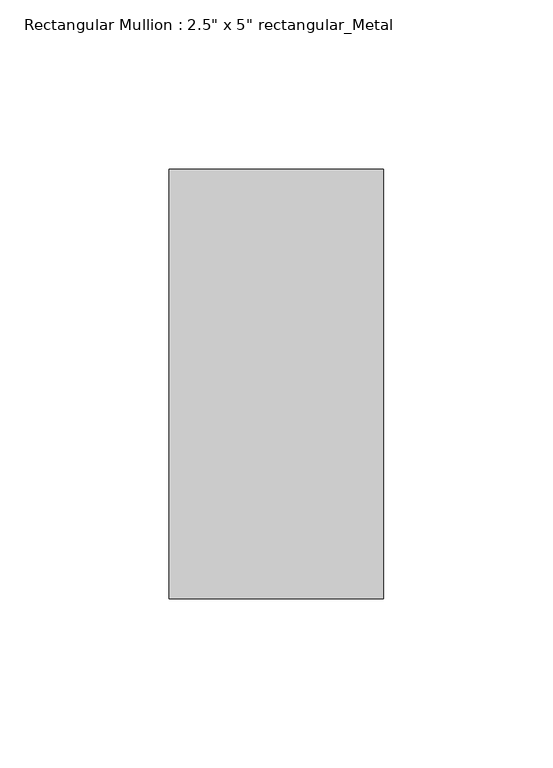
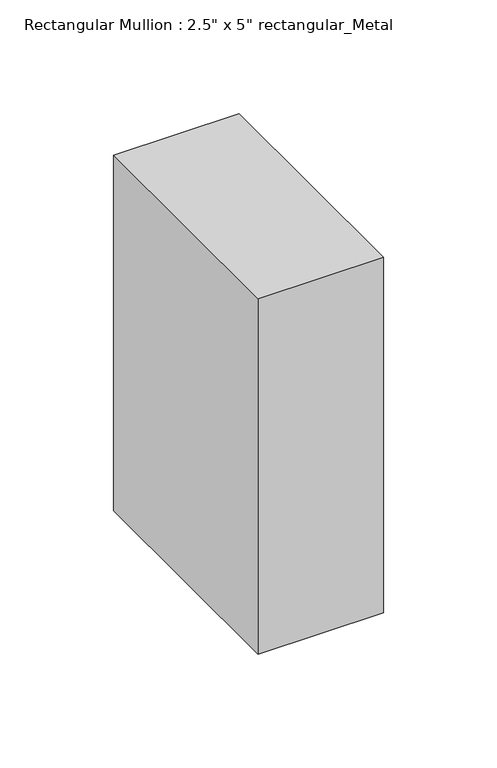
"""IFC4 building model written with IfcOpenShell, lengths in millimetres: member geometry."""

from ifc_helpers import new_model, si_unit, frame, origin, place, context, project, spatial, polyline, outline, extrude, source, transform, mapped, element, save


def member_c5a9dac0(model_context):
    return source(origin(), model_context, "Body", "SweptSolid", [
        extrude(outline(polyline([(0.0, 63.5), (0.0, -63.5), (-63.5, -63.5), (-63.5, 63.5), (0.0, 63.5)])), frame((0.0, 0.0, -190.5), z_axis=(0.0, 0.0, 1.0), x_axis=(1.0, 0.0, 0.0)), (0.0, 0.0, 1.0), 190.5),
    ])


if __name__ == "__main__":
    model = new_model("IFC4")
    model_context = context("Model", 3, world=origin())
    ifc_project = project(units=[si_unit("LENGTHUNIT", "METRE", prefix="MILLI")], contexts=[model_context])
    site = spatial("IfcSite", under=ifc_project)
    building = spatial("IfcBuilding", under=site)
    placement = place(None, origin())
    member_shape = member_c5a9dac0(model_context)
    element("IfcMember", 1, ObjectType="Rectangular Mullion : 2.5\" x 5\" rectangular_Metal", at=placement, inside=building, context=model_context, shape_type="MappedRepresentation", body=[
        mapped(member_shape, transform((0.0, 0.0, 0.0), x_axis=(1.0, 0.0, 0.0), y_axis=(0.0, 1.0, 0.0), z_axis=(0.0, 0.0, 1.0))),
    ])
    save(model, "model.ifc")
